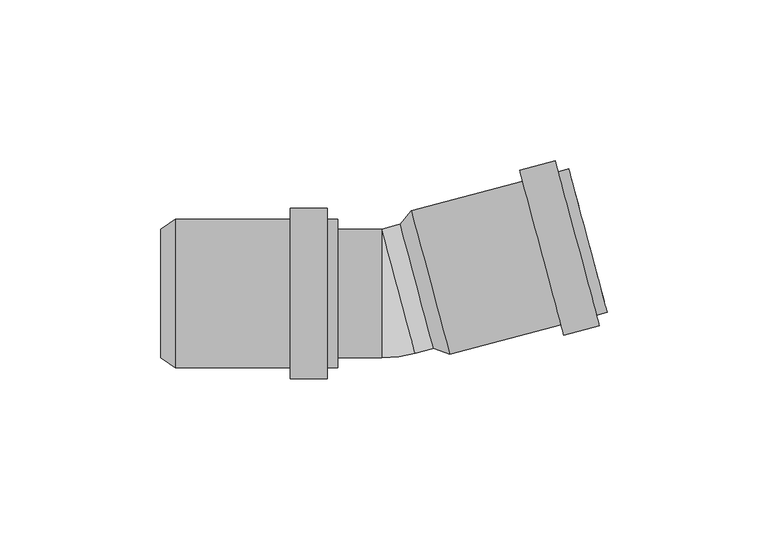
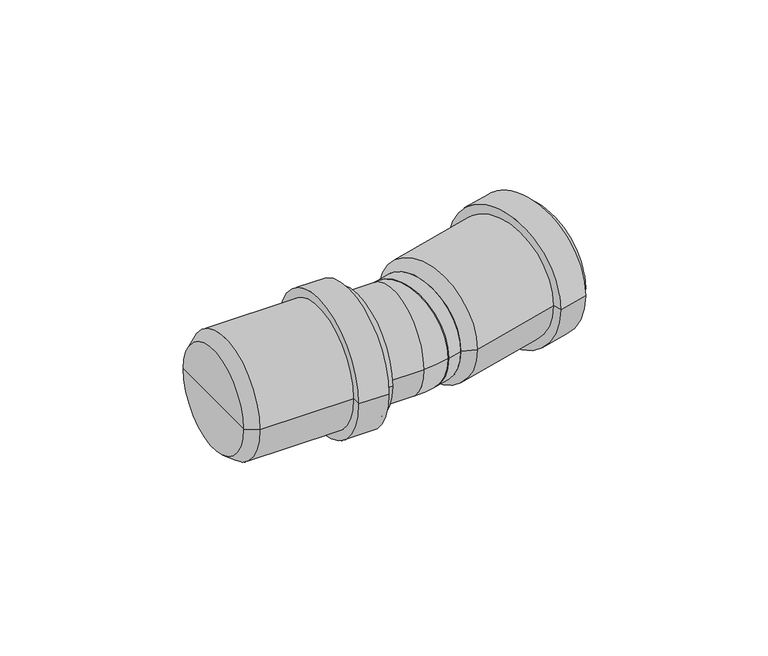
"""IFC4 building model written with IfcOpenShell, lengths in millimetres: pipe fitting geometry, pf_HTB : pf_HTB."""

from ifc_helpers import new_model, si_unit, point, frame, origin, origin_2d, place, context, project, spatial, polyline, circle_curve, ellipse_curve, trimmed, segment, composite_curve, outline, extrude, source, transform, mapped, element, save
from ifc_brep_helpers import plane_surface, cylinder_surface, revolved_surface, advanced_brep


def pipe_fitting_05bbf92f(model_context):
    return source(origin(), model_context, "Body", "SolidModel", [
        advanced_brep(
        [(13.3867504, -17.1185546, 0.0), (3.0339886, 21.5184784, 0.0), (6.4817232, 25.6516523, 0.0), (18.4391631, -18.9741209, 0.0), (8.2103695, 2.1999619, 0.0), (67.3150099, -5.8778772, 0.0), (55.35757, 38.747896, 0.0), (56.1599091, 35.7535259, 0.0), (66.5126709, -2.8835072, 0.0), (64.0308621, -6.757862, 0.0), (52.0734222, 37.8679112, 0.0), (64.9108469, -10.0420098, 0.0), (51.1934375, 41.152059, 0.0), (53.8992924, -12.9925469, 0.0), (40.181883, 38.2015219, 0.0), (53.0193077, -9.7083991, 0.0), (41.0618678, 34.9173741, 0.0), (17.6368241, -15.9797508, 0.0), (7.2840623, 22.6572822, 0.0), (12.4604432, 3.3387657, 0.0)],
        [
            (0, 1, circle_curve(frame((8.2103695, 2.1999619, 0.0), z_axis=(0.9659258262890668, 0.25881904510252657, 0.0), x_axis=(-0.25881904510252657, 0.9659258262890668, 0.0)), 20.0)),
            (1, 2),
            (2, 3, circle_curve(frame((12.4604432, 3.3387657, 0.0), z_axis=(-0.9659258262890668, -0.25881904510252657, 0.0), x_axis=(-0.25881904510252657, 0.9659258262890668, 0.0)), 23.1)),
            (3, 0),
            (1, 0, circle_curve(frame((8.2103695, 2.1999619, 0.0), z_axis=(0.9659258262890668, 0.25881904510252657, 0.0), x_axis=(-0.25881904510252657, 0.9659258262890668, 0.0)), 20.0)),
            (3, 2, circle_curve(frame((12.4604432, 3.3387657, 0.0), z_axis=(-0.9659258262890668, -0.25881904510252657, 0.0), x_axis=(-0.25881904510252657, 0.9659258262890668, 0.0)), 23.1)),
            (4, 1),
            (0, 4),
            (5, 6, circle_curve(frame((61.33629, 16.4350094, 0.0), z_axis=(0.9659258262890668, 0.25881904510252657, 0.0), x_axis=(-0.25881904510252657, 0.9659258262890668, 0.0)), 23.1)),
            (6, 7),
            (7, 8, circle_curve(frame((61.33629, 16.4350094, 0.0), z_axis=(-0.9659258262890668, -0.25881904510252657, 0.0), x_axis=(-0.25881904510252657, 0.9659258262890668, 0.0)), 20.0)),
            (8, 5),
            (6, 5, circle_curve(frame((61.33629, 16.4350094, 0.0), z_axis=(0.9659258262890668, 0.25881904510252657, 0.0), x_axis=(-0.25881904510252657, 0.9659258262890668, 0.0)), 23.1)),
            (8, 7, circle_curve(frame((61.33629, 16.4350094, 0.0), z_axis=(-0.9659258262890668, -0.25881904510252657, 0.0), x_axis=(-0.25881904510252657, 0.9659258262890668, 0.0)), 20.0)),
            (9, 10, circle_curve(frame((58.0521422, 15.5550246, 0.0), z_axis=(0.9659258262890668, 0.25881904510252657, 0.0), x_axis=(-0.25881904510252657, 0.9659258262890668, 0.0)), 23.1)),
            (10, 6),
            (5, 9),
            (10, 9, circle_curve(frame((58.0521422, 15.5550246, 0.0), z_axis=(0.9659258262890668, 0.25881904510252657, 0.0), x_axis=(-0.25881904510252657, 0.9659258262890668, 0.0)), 23.1)),
            (11, 12, circle_curve(frame((58.0521422, 15.5550246, 0.0), z_axis=(0.9659258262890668, 0.25881904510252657, 0.0), x_axis=(-0.25881904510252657, 0.9659258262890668, 0.0)), 26.5)),
            (12, 10),
            (9, 11),
            (12, 11, circle_curve(frame((58.0521422, 15.5550246, 0.0), z_axis=(0.9659258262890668, 0.25881904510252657, 0.0), x_axis=(-0.25881904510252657, 0.9659258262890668, 0.0)), 26.5)),
            (13, 14, circle_curve(frame((47.0405877, 12.6044875, 0.0), z_axis=(0.9659258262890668, 0.25881904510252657, 0.0), x_axis=(-0.25881904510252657, 0.9659258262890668, 0.0)), 26.5)),
            (14, 12),
            (11, 13),
            (14, 13, circle_curve(frame((47.0405877, 12.6044875, 0.0), z_axis=(0.9659258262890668, 0.25881904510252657, 0.0), x_axis=(-0.25881904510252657, 0.9659258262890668, 0.0)), 26.5)),
            (15, 16, circle_curve(frame((47.0405877, 12.6044875, 0.0), z_axis=(0.9659258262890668, 0.25881904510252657, 0.0), x_axis=(-0.25881904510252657, 0.9659258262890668, 0.0)), 23.1)),
            (16, 14),
            (13, 15),
            (16, 15, circle_curve(frame((47.0405877, 12.6044875, 0.0), z_axis=(0.9659258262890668, 0.25881904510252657, 0.0), x_axis=(-0.25881904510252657, 0.9659258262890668, 0.0)), 23.1)),
            (2, 16),
            (15, 3),
            (17, 18, circle_curve(frame((12.4604432, 3.3387657, 0.0), z_axis=(0.9659258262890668, 0.25881904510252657, 0.0), x_axis=(-0.25881904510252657, 0.9659258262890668, 0.0)), 20.0)),
            (18, 19),
            (19, 17),
            (18, 17, circle_curve(frame((12.4604432, 3.3387657, 0.0), z_axis=(0.9659258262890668, 0.25881904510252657, 0.0), x_axis=(-0.25881904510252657, 0.9659258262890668, 0.0)), 20.0)),
            (7, 18),
            (17, 8),
        ],
        [
            revolved_surface(polyline([(6.4817232, 25.6516523, 0.0), (3.0339886, 21.5184784, 0.0)]), (8.2103695, 2.1999619, 0.0), (-0.9659258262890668, -0.25881904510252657, 0.0)),
            plane_surface(frame((8.2103695, 2.1999619, 0.0), z_axis=(-0.9659258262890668, -0.25881904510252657, 0.0), x_axis=(-0.25881904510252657, 0.9659258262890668, 0.0))),
            plane_surface(frame((61.33629, 16.4350094, 0.0), z_axis=(0.9659258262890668, 0.25881904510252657, 0.0), x_axis=(-0.25881904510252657, 0.9659258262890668, 0.0))),
            cylinder_surface(frame((8.2103695, 2.1999619, 0.0), z_axis=(-0.9659258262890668, -0.25881904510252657, 0.0), x_axis=(-0.25881904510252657, 0.9659258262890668, 0.0)), 23.1),
            plane_surface(frame((58.0521422, 15.5550246, 0.0), z_axis=(0.9659258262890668, 0.25881904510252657, 0.0), x_axis=(-0.25881904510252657, 0.9659258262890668, 0.0))),
            cylinder_surface(frame((8.2103695, 2.1999619, 0.0), z_axis=(-0.9659258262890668, -0.25881904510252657, 0.0), x_axis=(-0.25881904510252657, 0.9659258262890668, 0.0)), 26.5),
            plane_surface(frame((47.0405877, 12.6044875, 0.0), z_axis=(-0.9659258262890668, -0.25881904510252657, 0.0), x_axis=(-0.25881904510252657, 0.9659258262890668, 0.0))),
            plane_surface(frame((12.4604432, 3.3387657, 0.0), z_axis=(0.9659258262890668, 0.25881904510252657, 0.0), x_axis=(-0.25881904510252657, 0.9659258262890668, 0.0))),
            revolved_surface(polyline([(7.2840622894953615, 22.65728223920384, 0.0), (56.159909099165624, 35.75352592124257, 0.0)]), (8.2103695, 2.1999619, 0.0), (-0.9659258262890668, -0.25881904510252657, 0.0)),
        ],
        [
            (0, [[1, 2, 3, 4]]),
            (0, [[5, -4, 6, -2]]),
            (1, [[7, -1, 8]]),
            (1, [[-8, -5, -7]]),
            (2, [[9, 10, 11, 12]]),
            (2, [[13, -12, 14, -10]]),
            (3, [[15, 16, -9, 17]]),
            (3, [[18, -17, -13, -16]]),
            (4, [[19, 20, -15, 21]]),
            (4, [[22, -21, -18, -20]]),
            (5, [[23, 24, -19, 25]]),
            (5, [[26, -25, -22, -24]]),
            (6, [[27, 28, -23, 29]]),
            (6, [[30, -29, -26, -28]]),
            (3, [[-3, 31, -27, 32]]),
            (3, [[-6, -32, -30, -31]]),
            (7, [[33, 34, 35]]),
            (7, [[36, -35, -34]]),
            (8, [[-11, 37, -33, 38]]),
            (8, [[-14, -38, -36, -37]]),
        ],
    ),
        advanced_brep(
        [(-71.3, -20.0, 0.0), (-71.3, 20.0, 0.0), (-66.9, 23.1, 0.0), (-66.9, -23.1, 0.0), (-71.3, 0.0, 0.0), (-16.3, -23.1, 0.0), (-16.3, 23.1, 0.0), (-16.3, 20.0, 0.0), (-16.3, -20.0, 0.0), (-19.7, -23.1, 0.0), (-19.7, 23.1, 0.0), (-19.7, -26.5, 0.0), (-19.7, 26.5, 0.0), (-31.1, -26.5, 0.0), (-31.1, 26.5, 0.0), (-31.1, -23.1, 0.0), (-31.1, 23.1, 0.0), (-66.9, -20.0, 0.0), (-66.9, 20.0, 0.0), (-66.9, 0.0, 0.0)],
        [
            (0, 1, circle_curve(frame((-71.3, 0.0, 0.0), z_axis=(1.0, 0.0, 0.0), x_axis=(0.0, 1.0, 0.0)), 20.0)),
            (1, 2),
            (2, 3, circle_curve(frame((-66.9, 0.0, 0.0), z_axis=(-1.0, 0.0, 0.0), x_axis=(0.0, 1.0, 0.0)), 23.1)),
            (3, 0),
            (1, 0, circle_curve(frame((-71.3, 0.0, 0.0), z_axis=(1.0, 0.0, 0.0), x_axis=(0.0, 1.0, 0.0)), 20.0)),
            (3, 2, circle_curve(frame((-66.9, 0.0, 0.0), z_axis=(-1.0, 0.0, 0.0), x_axis=(0.0, 1.0, 0.0)), 23.1)),
            (4, 1),
            (0, 4),
            (5, 6, circle_curve(frame((-16.3, 0.0, 0.0), z_axis=(1.0, 0.0, 0.0), x_axis=(0.0, 1.0, 0.0)), 23.1)),
            (6, 7),
            (7, 8, circle_curve(frame((-16.3, 0.0, 0.0), z_axis=(-1.0, 0.0, 0.0), x_axis=(0.0, 1.0, 0.0)), 20.0)),
            (8, 5),
            (6, 5, circle_curve(frame((-16.3, 0.0, 0.0), z_axis=(1.0, 0.0, 0.0), x_axis=(0.0, 1.0, 0.0)), 23.1)),
            (8, 7, circle_curve(frame((-16.3, 0.0, 0.0), z_axis=(-1.0, 0.0, 0.0), x_axis=(0.0, 1.0, 0.0)), 20.0)),
            (9, 10, circle_curve(frame((-19.7, 0.0, 0.0), z_axis=(1.0, 0.0, 0.0), x_axis=(0.0, 1.0, 0.0)), 23.1)),
            (10, 6),
            (5, 9),
            (10, 9, circle_curve(frame((-19.7, 0.0, 0.0), z_axis=(1.0, 0.0, 0.0), x_axis=(0.0, 1.0, 0.0)), 23.1)),
            (11, 12, circle_curve(frame((-19.7, 0.0, 0.0), z_axis=(1.0, 0.0, 0.0), x_axis=(0.0, 1.0, 0.0)), 26.5)),
            (12, 10),
            (9, 11),
            (12, 11, circle_curve(frame((-19.7, 0.0, 0.0), z_axis=(1.0, 0.0, 0.0), x_axis=(0.0, 1.0, 0.0)), 26.5)),
            (13, 14, circle_curve(frame((-31.1, 0.0, 0.0), z_axis=(1.0, 0.0, 0.0), x_axis=(0.0, 1.0, 0.0)), 26.5)),
            (14, 12),
            (11, 13),
            (14, 13, circle_curve(frame((-31.1, 0.0, 0.0), z_axis=(1.0, 0.0, 0.0), x_axis=(0.0, 1.0, 0.0)), 26.5)),
            (15, 16, circle_curve(frame((-31.1, 0.0, 0.0), z_axis=(1.0, 0.0, 0.0), x_axis=(0.0, 1.0, 0.0)), 23.1)),
            (16, 14),
            (13, 15),
            (16, 15, circle_curve(frame((-31.1, 0.0, 0.0), z_axis=(1.0, 0.0, 0.0), x_axis=(0.0, 1.0, 0.0)), 23.1)),
            (2, 16),
            (15, 3),
            (17, 18, circle_curve(frame((-66.9, 0.0, 0.0), z_axis=(1.0, 0.0, 0.0), x_axis=(0.0, 1.0, 0.0)), 20.0)),
            (18, 19),
            (19, 17),
            (18, 17, circle_curve(frame((-66.9, 0.0, 0.0), z_axis=(1.0, 0.0, 0.0), x_axis=(0.0, 1.0, 0.0)), 20.0)),
            (7, 18),
            (17, 8),
        ],
        [
            revolved_surface(polyline([(-66.9, 23.1, 0.0), (-71.3, 20.0, 0.0)]), (-71.3, 0.0, 0.0), (-1.0, 0.0, 0.0)),
            plane_surface(frame((-71.3, 0.0, 0.0), z_axis=(-1.0, 0.0, 0.0), x_axis=(0.0, 1.0, 0.0))),
            plane_surface(frame((-16.3, 0.0, 0.0), z_axis=(1.0, 0.0, 0.0), x_axis=(0.0, 1.0, 0.0))),
            cylinder_surface(frame((-71.3, 0.0, 0.0), z_axis=(-1.0, 0.0, 0.0), x_axis=(0.0, 1.0, 0.0)), 23.1),
            plane_surface(frame((-19.7, 0.0, 0.0), z_axis=(1.0, 0.0, 0.0), x_axis=(0.0, 1.0, 0.0))),
            cylinder_surface(frame((-71.3, 0.0, 0.0), z_axis=(-1.0, 0.0, 0.0), x_axis=(0.0, 1.0, 0.0)), 26.5),
            plane_surface(frame((-31.1, 0.0, 0.0), z_axis=(-1.0, 0.0, 0.0), x_axis=(0.0, 1.0, 0.0))),
            plane_surface(frame((-66.9, 0.0, 0.0), z_axis=(1.0, 0.0, 0.0), x_axis=(0.0, 1.0, 0.0))),
            revolved_surface(polyline([(-66.9, 20.0, 0.0), (-16.299999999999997, 20.0, 0.0)]), (-71.3, 0.0, 0.0), (-1.0, 0.0, 0.0)),
        ],
        [
            (0, [[1, 2, 3, 4]]),
            (0, [[5, -4, 6, -2]]),
            (1, [[7, -1, 8]]),
            (1, [[-8, -5, -7]]),
            (2, [[9, 10, 11, 12]]),
            (2, [[13, -12, 14, -10]]),
            (3, [[15, 16, -9, 17]]),
            (3, [[18, -17, -13, -16]]),
            (4, [[19, 20, -15, 21]]),
            (4, [[22, -21, -18, -20]]),
            (5, [[23, 24, -19, 25]]),
            (5, [[26, -25, -22, -24]]),
            (6, [[27, 28, -23, 29]]),
            (6, [[30, -29, -26, -28]]),
            (3, [[-3, 31, -27, 32]]),
            (3, [[-6, -32, -30, -31]]),
            (7, [[33, 34, 35]]),
            (7, [[36, -35, -34]]),
            (8, [[-11, 37, -33, 38]]),
            (8, [[-14, -38, -36, -37]]),
        ],
    ),
        extrude(outline(composite_curve([segment(trimmed(circle_curve(origin_2d(), 20.0), [point((0.0, -20.0))], [point((0.0, 20.0000001))], False, "CARTESIAN"), True, "CONTINUOUS"), segment(trimmed(circle_curve(origin_2d(), 20.0), [point((0.0, 20.0000001))], [point((0.0, -20.0))], False, "CARTESIAN"), True, "CONTINUOUS")], self_intersect=False)), frame((2.543331, 0.6814835, 0.0), z_axis=(0.9659258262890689, 0.258819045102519, 0.0), x_axis=(0.0, 0.0, 1.0)), (0.0, 0.0, 1.0), 10.26695),
        extrude(outline(composite_curve([segment(trimmed(circle_curve(origin_2d(), 20.0), [point((-20.0, 0.0))], [point((20.0, 0.0))], False, "CARTESIAN"), True, "CONTINUOUS"), segment(trimmed(circle_curve(origin_2d(), 20.0), [point((20.0, 0.0))], [point((-20.0, 0.0))], False, "CARTESIAN"), True, "CONTINUOUS")], self_intersect=False)), frame((-66.9, 0.0, 0.0), z_axis=(1.0, 0.0, 0.0), x_axis=(0.0, 1.0, 0.0)), (0.0, 0.0, 1.0), 64.26695),
        advanced_brep(
        [(-2.63305, -20.0, 0.0), (-2.63305, 20.0, 0.0), (7.7197119, -18.6370331, 0.0)],
        [
            (0, 1, circle_curve(frame((-2.63305, 0.0, 0.0), z_axis=(-1.0, 0.0, 0.0), x_axis=(0.0, 1.0, 0.0)), 20.0)),
            (1, 0, circle_curve(frame((-2.63305, 0.0, 0.0), z_axis=(-1.0, 0.0, 0.0), x_axis=(0.0, 1.0, 0.0)), 20.0)),
            (2, 1, circle_curve(frame((2.543331, 0.6814835, 0.0), z_axis=(0.9659258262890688, 0.25881904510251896, 0.0), x_axis=(-0.25881904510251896, 0.9659258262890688, 0.0)), 20.0)),
            (1, 2, circle_curve(frame((2.543331, 0.6814835, 0.0), z_axis=(0.9659258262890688, 0.25881904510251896, 0.0), x_axis=(-0.25881904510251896, 0.9659258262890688, 0.0)), 20.0)),
            (2, 0, circle_curve(frame((-2.63305, 20.0, 0.0), z_axis=(0.0, 0.0, -1.0), x_axis=(0.0, -1.0, 0.0)), 40.0)),
        ],
        [
            plane_surface(frame((-2.63305, 20.0, -14.8), z_axis=(-1.0, 0.0, 0.0), x_axis=(0.0, -1.0, 0.0))),
            plane_surface(frame((-2.63305, 20.0, -14.8), z_axis=(0.9659258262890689, 0.258819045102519, 0.0), x_axis=(0.258819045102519, -0.9659258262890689, 0.0))),
            revolved_surface(trimmed(ellipse_curve(frame((-2.63305, 0.0, 0.0), z_axis=(1.0, 0.0, 0.0), x_axis=(0.0, 1.0, 0.0)), 20.0, 20.0), [point((-2.63305, -20.0, 0.0))], [point((-2.63305, 20.0, 0.0))], True, "CARTESIAN"), (-2.63305, 20.0, -14.8), (0.0, 0.0, -1.0)),
            revolved_surface(trimmed(ellipse_curve(frame((-2.63305, 0.0, 0.0), z_axis=(1.0, 0.0, 0.0), x_axis=(0.0, 1.0, 0.0)), 20.0, 20.0), [point((-2.63305, 20.0, 0.0))], [point((-2.63305, -20.0, 0.0))], True, "CARTESIAN"), (-2.63305, 20.0, -14.8), (0.0, 0.0, -1.0)),
        ],
        [
            (0, [[1, 2]]),
            (1, [[3, 4]]),
            (2, [[5, -2, -3]]),
            (3, [[-1, -5, -4]]),
        ],
    ),
    ])


if __name__ == "__main__":
    model = new_model("IFC4")
    model_context = context("Model", 3, world=origin())
    ifc_project = project(units=[si_unit("LENGTHUNIT", "METRE", prefix="MILLI")], contexts=[model_context])
    site = spatial("IfcSite", under=ifc_project)
    building = spatial("IfcBuilding", under=site)
    placement = place(None, origin())
    pipe_fitting_shape = pipe_fitting_05bbf92f(model_context)
    element("IfcPipeFitting", 1, ObjectType="pf_HTB : pf_HTB", at=placement, inside=building, context=model_context, shape_type="MappedRepresentation", body=[
        mapped(pipe_fitting_shape, transform((0.0, 0.0, 0.0), x_axis=(1.0, 0.0, 0.0), y_axis=(0.0, 1.0, 0.0), z_axis=(0.0, 0.0, 1.0))),
    ])
    save(model, "model.ifc")
